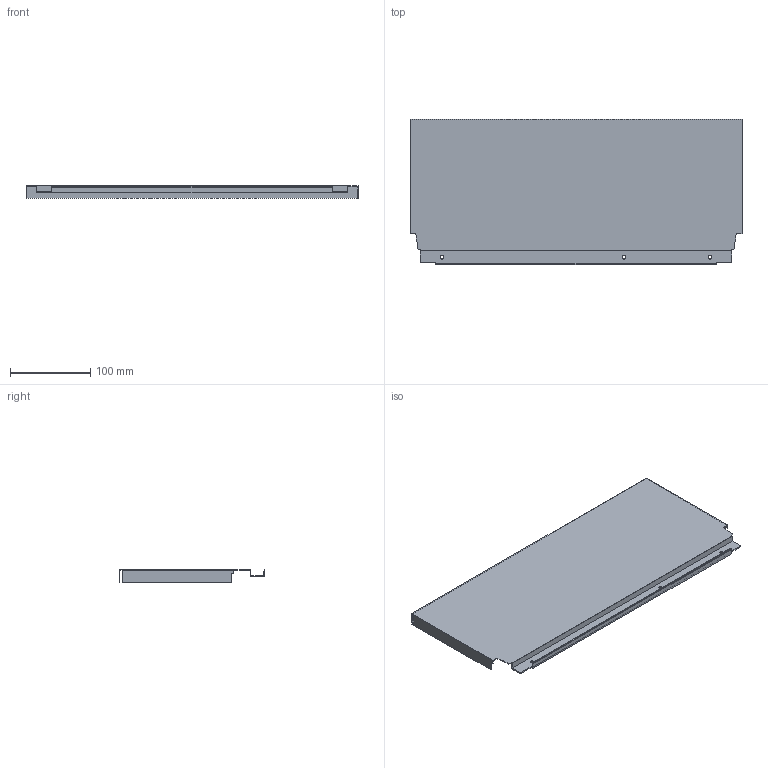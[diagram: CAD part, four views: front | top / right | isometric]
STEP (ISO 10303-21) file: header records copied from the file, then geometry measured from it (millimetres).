
FILE_DESCRIPTION (( 'STEP AP214' ), '1' );
FILE_NAME ('_DWD_XP Stahlrückwand_H182_KAB500_S17.step', '2010-07-08T12:57:43', ( 'grass' ), ( '' ), 'SwSTEP 2.0', 'SolidWorks 2010', '' );
FILE_SCHEMA (( 'AUTOMOTIVE_DESIGN' ));
Length unit declared in the file: millimetre
Products named in the file (1): _DWD_XP Stahlrückwand_H182_KAB500_S17
Bounding box: 415 x 182.49 x 16 mm (x, y, z)
Volume: 78586.4 mm3; surface area: 182769.1 mm2
Topology: 1 solids, 1 shells, 46 faces, 132 edges, 88 vertices
Faces by surface type: plane 40, cylinder 6
Entity records: 1534 total; most frequent: CARTESIAN_POINT 267, ORIENTED_EDGE 264, DIRECTION 238, EDGE_CURVE 132, VECTOR 120, LINE 120, VERTEX_POINT 88, AXIS2_PLACEMENT_3D 59
